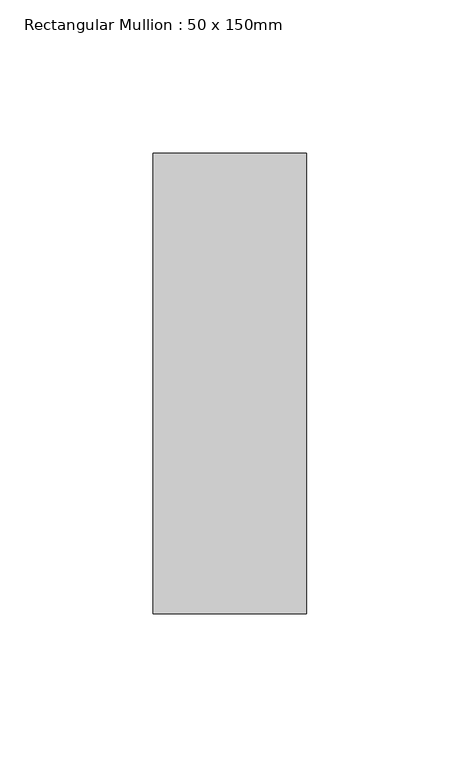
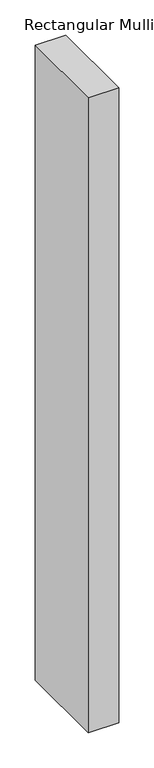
"""IFC4 building model written with IfcOpenShell, lengths in millimetres: member geometry, Rectangular Mullion : 50 x 150mm."""

from ifc_helpers import new_model, si_unit, frame, origin, place, context, project, spatial, polyline, outline, extrude, source, transform, mapped, element, save


def rectangular_mullion_50_x_150mm_97ff1a0c(model_context):
    return source(origin(), model_context, "Body", "SweptSolid", [
        extrude(outline(polyline([(25.0, 75.0), (25.0, -75.0), (-25.0, -75.0), (-25.0, 75.0), (25.0, 75.0)])), frame((0.0, 0.0, -1099.0), z_axis=(0.0, 0.0, 1.0), x_axis=(1.0, 0.0, 0.0)), (0.0, 0.0, 1.0), 1099.0),
    ])


if __name__ == "__main__":
    model = new_model("IFC4")
    model_context = context("Model", 3, world=origin())
    ifc_project = project(units=[si_unit("LENGTHUNIT", "METRE", prefix="MILLI")], contexts=[model_context])
    site = spatial("IfcSite", under=ifc_project)
    building = spatial("IfcBuilding", under=site)
    placement = place(None, origin())
    rectangular_mullion_50_x_150mm_shape = rectangular_mullion_50_x_150mm_97ff1a0c(model_context)
    element("IfcMember", 1, ObjectType="Rectangular Mullion : 50 x 150mm", at=placement, inside=building, context=model_context, shape_type="MappedRepresentation", body=[
        mapped(rectangular_mullion_50_x_150mm_shape, transform((0.0, 0.0, 0.0), x_axis=(1.0, 0.0, 0.0), y_axis=(0.0, 1.0, 0.0), z_axis=(0.0, 0.0, 1.0))),
    ])
    save(model, "model.ifc")
